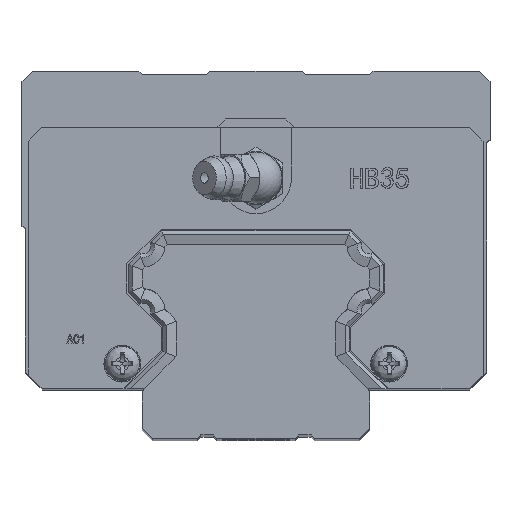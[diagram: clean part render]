
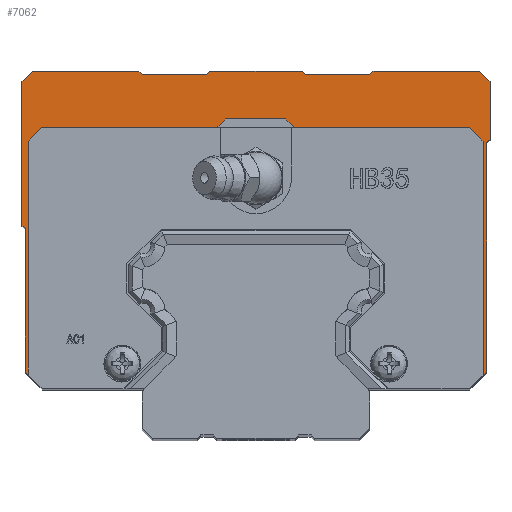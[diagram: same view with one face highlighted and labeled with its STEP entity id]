
A CAD part, top view. The second image highlights one B-rep face of the part: STEP entity #7062.
In plain terms, the highlighted planar face has unit normal (0, 0, 1).
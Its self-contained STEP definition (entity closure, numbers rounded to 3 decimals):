
#7062=ADVANCED_FACE('',(#8595),#7981,.T.);
#7981=PLANE('',#23137);
#8595=FACE_OUTER_BOUND('',#9477,.T.);
#9477=EDGE_LOOP('',(#11208,#11209,#11210,#11211,#11212,#11213,#11214,#11215,
#11216,#11217,#11218,#11219,#11220,#11221,#11222,#11223,#11224,#11225,#11226,
#11227,#11228,#11229,#11230,#11231,#11232,#11233,#11234,#11235,#11236,#11237,
#11238,#11239));
#11208=ORIENTED_EDGE('',*,*,#17576,.F.);
#11209=ORIENTED_EDGE('',*,*,#17577,.T.);
#11210=ORIENTED_EDGE('',*,*,#17578,.F.);
#11211=ORIENTED_EDGE('',*,*,#17579,.F.);
#11212=ORIENTED_EDGE('',*,*,#17580,.F.);
#11213=ORIENTED_EDGE('',*,*,#17581,.F.);
#11214=ORIENTED_EDGE('',*,*,#17582,.F.);
#11215=ORIENTED_EDGE('',*,*,#17583,.F.);
#11216=ORIENTED_EDGE('',*,*,#17584,.F.);
#11217=ORIENTED_EDGE('',*,*,#17585,.F.);
#11218=ORIENTED_EDGE('',*,*,#17586,.F.);
#11219=ORIENTED_EDGE('',*,*,#17587,.F.);
#11220=ORIENTED_EDGE('',*,*,#17588,.T.);
#11221=ORIENTED_EDGE('',*,*,#17589,.F.);
#11222=ORIENTED_EDGE('',*,*,#17590,.T.);
#11223=ORIENTED_EDGE('',*,*,#17591,.F.);
#11224=ORIENTED_EDGE('',*,*,#17592,.T.);
#11225=ORIENTED_EDGE('',*,*,#17593,.F.);
#11226=ORIENTED_EDGE('',*,*,#17594,.T.);
#11227=ORIENTED_EDGE('',*,*,#17595,.F.);
#11228=ORIENTED_EDGE('',*,*,#17596,.T.);
#11229=ORIENTED_EDGE('',*,*,#17597,.F.);
#11230=ORIENTED_EDGE('',*,*,#17598,.T.);
#11231=ORIENTED_EDGE('',*,*,#17599,.F.);
#11232=ORIENTED_EDGE('',*,*,#17600,.T.);
#11233=ORIENTED_EDGE('',*,*,#17601,.F.);
#11234=ORIENTED_EDGE('',*,*,#17602,.T.);
#11235=ORIENTED_EDGE('',*,*,#17603,.F.);
#11236=ORIENTED_EDGE('',*,*,#17604,.T.);
#11237=ORIENTED_EDGE('',*,*,#17605,.F.);
#11238=ORIENTED_EDGE('',*,*,#17606,.T.);
#11239=ORIENTED_EDGE('',*,*,#17607,.F.);
#15890=VERTEX_POINT('',#28546);
#15891=VERTEX_POINT('',#28547);
#15892=VERTEX_POINT('',#28549);
#15893=VERTEX_POINT('',#28551);
#15894=VERTEX_POINT('',#28553);
#15895=VERTEX_POINT('',#28555);
#15896=VERTEX_POINT('',#28557);
#15897=VERTEX_POINT('',#28559);
#15898=VERTEX_POINT('',#28561);
#15899=VERTEX_POINT('',#28563);
#15900=VERTEX_POINT('',#28565);
#15901=VERTEX_POINT('',#28567);
#15902=VERTEX_POINT('',#28569);
#15903=VERTEX_POINT('',#28571);
#15904=VERTEX_POINT('',#28573);
#15905=VERTEX_POINT('',#28575);
#15906=VERTEX_POINT('',#28577);
#15907=VERTEX_POINT('',#28579);
#15908=VERTEX_POINT('',#28581);
#15909=VERTEX_POINT('',#28583);
#15910=VERTEX_POINT('',#28585);
#15911=VERTEX_POINT('',#28587);
#15912=VERTEX_POINT('',#28589);
#15913=VERTEX_POINT('',#28591);
#15914=VERTEX_POINT('',#28593);
#15915=VERTEX_POINT('',#28595);
#15916=VERTEX_POINT('',#28597);
#15917=VERTEX_POINT('',#28599);
#15918=VERTEX_POINT('',#28601);
#15919=VERTEX_POINT('',#28603);
#15920=VERTEX_POINT('',#28605);
#15921=VERTEX_POINT('',#28607);
#17576=EDGE_CURVE('',#15890,#15891,#19982,.T.);
#17577=EDGE_CURVE('',#15890,#15892,#19983,.T.);
#17578=EDGE_CURVE('',#15893,#15892,#19984,.T.);
#17579=EDGE_CURVE('',#15894,#15893,#19985,.T.);
#17580=EDGE_CURVE('',#15895,#15894,#19986,.T.);
#17581=EDGE_CURVE('',#15896,#15895,#19987,.T.);
#17582=EDGE_CURVE('',#15897,#15896,#19988,.T.);
#17583=EDGE_CURVE('',#15898,#15897,#19989,.T.);
#17584=EDGE_CURVE('',#15899,#15898,#19990,.T.);
#17585=EDGE_CURVE('',#15900,#15899,#19991,.T.);
#17586=EDGE_CURVE('',#15901,#15900,#19992,.T.);
#17587=EDGE_CURVE('',#15902,#15901,#19993,.T.);
#17588=EDGE_CURVE('',#15902,#15903,#19994,.T.);
#17589=EDGE_CURVE('',#15904,#15903,#19995,.T.);
#17590=EDGE_CURVE('',#15904,#15905,#19996,.T.);
#17591=EDGE_CURVE('',#15906,#15905,#19997,.T.);
#17592=EDGE_CURVE('',#15906,#15907,#19998,.T.);
#17593=EDGE_CURVE('',#15908,#15907,#19999,.T.);
#17594=EDGE_CURVE('',#15908,#15909,#20000,.T.);
#17595=EDGE_CURVE('',#15910,#15909,#20001,.T.);
#17596=EDGE_CURVE('',#15910,#15911,#20002,.T.);
#17597=EDGE_CURVE('',#15912,#15911,#20003,.T.);
#17598=EDGE_CURVE('',#15912,#15913,#20004,.T.);
#17599=EDGE_CURVE('',#15914,#15913,#20005,.T.);
#17600=EDGE_CURVE('',#15914,#15915,#20006,.T.);
#17601=EDGE_CURVE('',#15916,#15915,#20007,.T.);
#17602=EDGE_CURVE('',#15916,#15917,#20008,.T.);
#17603=EDGE_CURVE('',#15918,#15917,#20009,.T.);
#17604=EDGE_CURVE('',#15918,#15919,#20010,.T.);
#17605=EDGE_CURVE('',#15920,#15919,#20011,.T.);
#17606=EDGE_CURVE('',#15920,#15921,#20012,.T.);
#17607=EDGE_CURVE('',#15891,#15921,#20013,.T.);
#19982=LINE('',#28545,#21487);
#19983=LINE('',#28548,#21488);
#19984=LINE('',#28550,#21489);
#19985=LINE('',#28552,#21490);
#19986=LINE('',#28554,#21491);
#19987=LINE('',#28556,#21492);
#19988=LINE('',#28558,#21493);
#19989=LINE('',#28560,#21494);
#19990=LINE('',#28562,#21495);
#19991=LINE('',#28564,#21496);
#19992=LINE('',#28566,#21497);
#19993=LINE('',#28568,#21498);
#19994=LINE('',#28570,#21499);
#19995=LINE('',#28572,#21500);
#19996=LINE('',#28574,#21501);
#19997=LINE('',#28576,#21502);
#19998=LINE('',#28578,#21503);
#19999=LINE('',#28580,#21504);
#20000=LINE('',#28582,#21505);
#20001=LINE('',#28584,#21506);
#20002=LINE('',#28586,#21507);
#20003=LINE('',#28588,#21508);
#20004=LINE('',#28590,#21509);
#20005=LINE('',#28592,#21510);
#20006=LINE('',#28594,#21511);
#20007=LINE('',#28596,#21512);
#20008=LINE('',#28598,#21513);
#20009=LINE('',#28600,#21514);
#20010=LINE('',#28602,#21515);
#20011=LINE('',#28604,#21516);
#20012=LINE('',#28606,#21517);
#20013=LINE('',#28608,#21518);
#21487=VECTOR('',#24573,1.);
#21488=VECTOR('',#24574,1.);
#21489=VECTOR('',#24575,1.);
#21490=VECTOR('',#24576,1.);
#21491=VECTOR('',#24577,1.);
#21492=VECTOR('',#24578,1.);
#21493=VECTOR('',#24579,1.);
#21494=VECTOR('',#24580,1.);
#21495=VECTOR('',#24581,1.);
#21496=VECTOR('',#24582,1.);
#21497=VECTOR('',#24583,1.);
#21498=VECTOR('',#24584,1.);
#21499=VECTOR('',#24585,1.);
#21500=VECTOR('',#24586,1.);
#21501=VECTOR('',#24587,1.);
#21502=VECTOR('',#24588,1.);
#21503=VECTOR('',#24589,1.);
#21504=VECTOR('',#24590,1.);
#21505=VECTOR('',#24591,1.);
#21506=VECTOR('',#24592,1.);
#21507=VECTOR('',#24593,1.);
#21508=VECTOR('',#24594,1.);
#21509=VECTOR('',#24595,1.);
#21510=VECTOR('',#24596,1.);
#21511=VECTOR('',#24597,1.);
#21512=VECTOR('',#24598,1.);
#21513=VECTOR('',#24599,1.);
#21514=VECTOR('',#24600,1.);
#21515=VECTOR('',#24601,1.);
#21516=VECTOR('',#24602,1.);
#21517=VECTOR('',#24603,1.);
#21518=VECTOR('',#24604,1.);
#23137=AXIS2_PLACEMENT_3D('',#28609,#24605,#24606);
#24573=DIRECTION('',(-1.,0.,0.));
#24574=DIRECTION('',(-0.707,0.707,0.));
#24575=DIRECTION('',(0.,-1.,0.));
#24576=DIRECTION('',(-0.707,-0.707,0.));
#24577=DIRECTION('',(-1.,0.,0.));
#24578=DIRECTION('',(-0.707,-0.707,0.));
#24579=DIRECTION('',(-1.,0.,0.));
#24580=DIRECTION('',(-0.707,0.707,0.));
#24581=DIRECTION('',(-1.,0.,0.));
#24582=DIRECTION('',(-0.707,0.707,0.));
#24583=DIRECTION('',(0.,1.,0.));
#24584=DIRECTION('',(0.707,0.707,0.));
#24585=DIRECTION('',(1.,0.,0.));
#24586=DIRECTION('',(-0.707,-0.707,0.));
#24587=DIRECTION('',(0.,1.,0.));
#24588=DIRECTION('',(-0.707,-0.707,0.));
#24589=DIRECTION('',(0.,1.,0.));
#24590=DIRECTION('',(0.707,-0.707,0.));
#24591=DIRECTION('',(-1.,0.,0.));
#24592=DIRECTION('',(0.707,0.707,0.));
#24593=DIRECTION('',(-1.,0.,0.));
#24594=DIRECTION('',(0.707,-0.707,0.));
#24595=DIRECTION('',(-1.,0.,0.));
#24596=DIRECTION('',(0.707,0.707,0.));
#24597=DIRECTION('',(-1.,0.,0.));
#24598=DIRECTION('',(0.707,-0.707,0.));
#24599=DIRECTION('',(-1.,0.,0.));
#24600=DIRECTION('',(0.707,0.707,0.));
#24601=DIRECTION('',(0.,-1.,0.));
#24602=DIRECTION('',(-0.707,0.707,0.));
#24603=DIRECTION('',(0.,-1.,0.));
#24604=DIRECTION('',(-0.707,0.707,0.));
#24605=DIRECTION('',(0.,0.,1.));
#24606=DIRECTION('',(1.,0.,0.));
#28545=CARTESIAN_POINT('',(-32.,-21.5,40.));
#28546=CARTESIAN_POINT('',(-31.986,-21.5,40.));
#28547=CARTESIAN_POINT('',(-32.,-21.5,40.));
#28548=CARTESIAN_POINT('',(-34.493,-18.993,40.));
#28549=CARTESIAN_POINT('',(-34.056,-19.429,40.));
#28550=CARTESIAN_POINT('',(-34.056,15.546,40.));
#28551=CARTESIAN_POINT('',(-34.056,15.536,40.));
#28552=CARTESIAN_POINT('',(-32.046,17.546,40.));
#28553=CARTESIAN_POINT('',(-32.046,17.546,40.));
#28554=CARTESIAN_POINT('',(-5.846,17.546,40.));
#28555=CARTESIAN_POINT('',(-5.846,17.546,40.));
#28556=CARTESIAN_POINT('',(-4.546,18.846,40.));
#28557=CARTESIAN_POINT('',(-4.546,18.846,40.));
#28558=CARTESIAN_POINT('',(4.454,18.846,40.));
#28559=CARTESIAN_POINT('',(4.454,18.846,40.));
#28560=CARTESIAN_POINT('',(5.754,17.546,40.));
#28561=CARTESIAN_POINT('',(5.754,17.546,40.));
#28562=CARTESIAN_POINT('',(31.954,17.546,40.));
#28563=CARTESIAN_POINT('',(31.954,17.546,40.));
#28564=CARTESIAN_POINT('',(33.954,15.546,40.));
#28565=CARTESIAN_POINT('',(33.954,15.546,40.));
#28566=CARTESIAN_POINT('',(33.954,-19.454,40.));
#28567=CARTESIAN_POINT('',(33.954,-19.454,40.));
#28568=CARTESIAN_POINT('',(31.908,-21.5,40.));
#28569=CARTESIAN_POINT('',(31.908,-21.5,40.));
#28570=CARTESIAN_POINT('',(16.641,-21.5,40.));
#28571=CARTESIAN_POINT('',(32.,-21.5,40.));
#28572=CARTESIAN_POINT('',(34.5,-19.,40.));
#28573=CARTESIAN_POINT('',(34.5,-19.,40.));
#28574=CARTESIAN_POINT('',(34.5,-19.,40.));
#28575=CARTESIAN_POINT('',(34.5,15.3,40.));
#28576=CARTESIAN_POINT('',(35.,15.8,40.));
#28577=CARTESIAN_POINT('',(35.,15.8,40.));
#28578=CARTESIAN_POINT('',(35.,15.8,40.));
#28579=CARTESIAN_POINT('',(35.,24.5,40.));
#28580=CARTESIAN_POINT('',(33.5,26.,40.));
#28581=CARTESIAN_POINT('',(33.5,26.,40.));
#28582=CARTESIAN_POINT('',(33.5,26.,40.));
#28583=CARTESIAN_POINT('',(17.5,26.,40.));
#28584=CARTESIAN_POINT('',(17.,25.5,40.));
#28585=CARTESIAN_POINT('',(17.,25.5,40.));
#28586=CARTESIAN_POINT('',(17.,25.5,40.));
#28587=CARTESIAN_POINT('',(7.4,25.5,40.));
#28588=CARTESIAN_POINT('',(6.9,26.,40.));
#28589=CARTESIAN_POINT('',(6.9,26.,40.));
#28590=CARTESIAN_POINT('',(6.9,26.,40.));
#28591=CARTESIAN_POINT('',(-6.9,26.,40.));
#28592=CARTESIAN_POINT('',(-7.4,25.5,40.));
#28593=CARTESIAN_POINT('',(-7.4,25.5,40.));
#28594=CARTESIAN_POINT('',(-7.4,25.5,40.));
#28595=CARTESIAN_POINT('',(-17.,25.5,40.));
#28596=CARTESIAN_POINT('',(-17.5,26.,40.));
#28597=CARTESIAN_POINT('',(-17.5,26.,40.));
#28598=CARTESIAN_POINT('',(-17.5,26.,40.));
#28599=CARTESIAN_POINT('',(-33.5,26.,40.));
#28600=CARTESIAN_POINT('',(-35.,24.5,40.));
#28601=CARTESIAN_POINT('',(-35.,24.5,40.));
#28602=CARTESIAN_POINT('',(-35.,24.5,40.));
#28603=CARTESIAN_POINT('',(-35.,3.,40.));
#28604=CARTESIAN_POINT('',(-34.5,2.5,40.));
#28605=CARTESIAN_POINT('',(-34.5,2.5,40.));
#28606=CARTESIAN_POINT('',(-34.5,2.5,40.));
#28607=CARTESIAN_POINT('',(-34.5,-19.,40.));
#28608=CARTESIAN_POINT('',(-34.5,-19.,40.));
#28609=CARTESIAN_POINT('',(0.,0.,40.));
